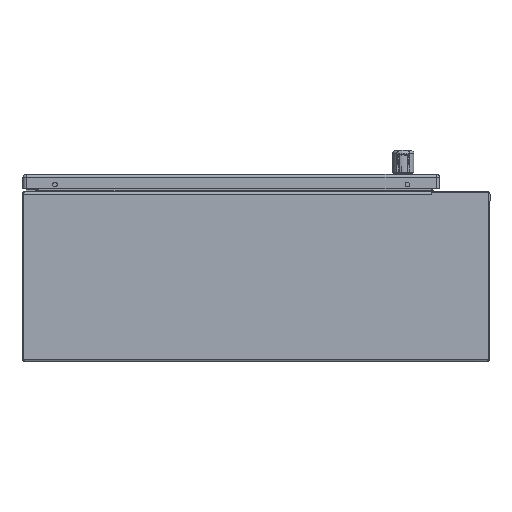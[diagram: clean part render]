
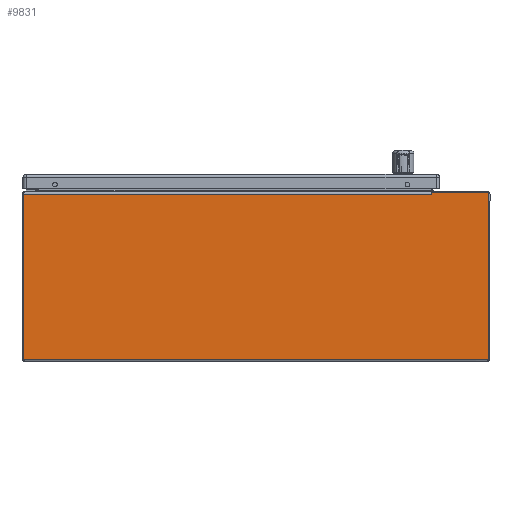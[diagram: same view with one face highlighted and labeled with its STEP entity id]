
A CAD part, front view. The second image highlights one B-rep face of the part: STEP entity #9831.
In plain terms, the highlighted planar face has unit normal (0, -1, 0).
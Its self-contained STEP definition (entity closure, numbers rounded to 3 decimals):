
#9831 = ADVANCED_FACE ( 'NONE', ( #34670 ), #48830, .F. ) ;
#21155 = EDGE_CURVE ( 'NONE', #55545, #55542, #63937, .T. ) ;
#21254 = EDGE_CURVE ( 'NONE', #55846, #55812, #63990, .T. ) ;
#21258 = EDGE_CURVE ( 'NONE', #55855, #55846, #63996, .T. ) ;
#21268 = EDGE_CURVE ( 'NONE', #55542, #55808, #63999, .T. ) ;
#21270 = EDGE_CURVE ( 'NONE', #55810, #55808, #64010, .T. ) ;
#21272 = EDGE_CURVE ( 'NONE', #55545, #55812, #64009, .T. ) ;
#21278 = EDGE_CURVE ( 'NONE', #55855, #55810, #63998, .T. ) ;
#25285 = ORIENTED_EDGE ( 'NONE', *, *, #21278, .T. ) ;
#25286 = ORIENTED_EDGE ( 'NONE', *, *, #21270, .T. ) ;
#25287 = ORIENTED_EDGE ( 'NONE', *, *, #21268, .F. ) ;
#25288 = ORIENTED_EDGE ( 'NONE', *, *, #21155, .F. ) ;
#25289 = ORIENTED_EDGE ( 'NONE', *, *, #21272, .T. ) ;
#25290 = ORIENTED_EDGE ( 'NONE', *, *, #21254, .F. ) ;
#25291 = ORIENTED_EDGE ( 'NONE', *, *, #21258, .F. ) ;
#29604 = EDGE_LOOP ( 'NONE', ( #25285, #25286, #25287, #25288, #25289, #25290, #25291 ) ) ;
#34670 = FACE_OUTER_BOUND ( 'NONE', #29604, .T. ) ;
#37314 = AXIS2_PLACEMENT_3D ( 'NONE', #48816, #48841, #48843 ) ;
#38074 = AXIS2_PLACEMENT_3D ( 'NONE', #66155, #66157, #66158 ) ;
#48816 = CARTESIAN_POINT ( 'NONE',  ( -10.206, -12., 8. ) ) ;
#48830 = PLANE ( 'NONE',  #37314 ) ;
#48841 = DIRECTION ( 'NONE',  ( 0., 1., 0. ) ) ;
#48843 = DIRECTION ( 'NONE',  ( 0., 0., 1. ) ) ;
#55542 = VERTEX_POINT ( 'NONE', #79139 ) ;
#55545 = VERTEX_POINT ( 'NONE', #79142 ) ;
#55808 = VERTEX_POINT ( 'NONE', #79406 ) ;
#55810 = VERTEX_POINT ( 'NONE', #79408 ) ;
#55812 = VERTEX_POINT ( 'NONE', #79410 ) ;
#55846 = VERTEX_POINT ( 'NONE', #79444 ) ;
#55855 = VERTEX_POINT ( 'NONE', #79453 ) ;
#63937 = LINE ( 'NONE', #65939, #63942 ) ;
#63942 = VECTOR ( 'NONE', #65942, 39.37 ) ;
#63990 = LINE ( 'NONE', #66139, #63992 ) ;
#63992 = VECTOR ( 'NONE', #66140, 39.37 ) ;
#63996 = LINE ( 'NONE', #66143, #63997 ) ;
#63997 = VECTOR ( 'NONE', #66144, 39.37 ) ;
#63998 = LINE ( 'NONE', #66163, #64007 ) ;
#63999 = LINE ( 'NONE', #66152, #64006 ) ;
#64005 = VECTOR ( 'NONE', #66159, 39.37 ) ;
#64006 = VECTOR ( 'NONE', #66156, 39.37 ) ;
#64007 = VECTOR ( 'NONE', #66166, 39.37 ) ;
#64009 = LINE ( 'NONE', #66153, #64005 ) ;
#64010 = CIRCLE ( 'NONE', #38074, 0.088 ) ;
#65939 = CARTESIAN_POINT ( 'NONE',  ( 8.99, -12., 8. ) ) ;
#65942 = DIRECTION ( 'NONE',  ( 0., 0., 1. ) ) ;
#66139 = CARTESIAN_POINT ( 'NONE',  ( -10.15, -12., 0.055 ) ) ;
#66140 = DIRECTION ( 'NONE',  ( 0., 0., 1. ) ) ;
#66143 = CARTESIAN_POINT ( 'NONE',  ( -10.206, -12., 0.115 ) ) ;
#66144 = DIRECTION ( 'NONE',  ( -1., 0., 0. ) ) ;
#66152 = CARTESIAN_POINT ( 'NONE',  ( 8.99, -12., 7.945 ) ) ;
#66153 = CARTESIAN_POINT ( 'NONE',  ( 8.99, -12., 7.855 ) ) ;
#66155 = CARTESIAN_POINT ( 'NONE',  ( 11.601, -12., 7.858 ) ) ;
#66156 = DIRECTION ( 'NONE',  ( 1., 0., 0. ) ) ;
#66157 = DIRECTION ( 'NONE',  ( 0., -1., 0. ) ) ;
#66158 = DIRECTION ( 'NONE',  ( 0., 0., 1. ) ) ;
#66159 = DIRECTION ( 'NONE',  ( -1., 0., 0. ) ) ;
#66163 = CARTESIAN_POINT ( 'NONE',  ( 11.688, -12., 8. ) ) ;
#66166 = DIRECTION ( 'NONE',  ( 0., 0., 1. ) ) ;
#79139 = CARTESIAN_POINT ( 'NONE',  ( 8.99, -12., 7.945 ) ) ;
#79142 = CARTESIAN_POINT ( 'NONE',  ( 8.99, -12., 7.855 ) ) ;
#79406 = CARTESIAN_POINT ( 'NONE',  ( 11.601, -12., 7.945 ) ) ;
#79408 = CARTESIAN_POINT ( 'NONE',  ( 11.688, -12., 7.858 ) ) ;
#79410 = CARTESIAN_POINT ( 'NONE',  ( -10.15, -12., 7.855 ) ) ;
#79444 = CARTESIAN_POINT ( 'NONE',  ( -10.15, -12., 0.115 ) ) ;
#79453 = CARTESIAN_POINT ( 'NONE',  ( 11.688, -12., 0.115 ) ) ;
